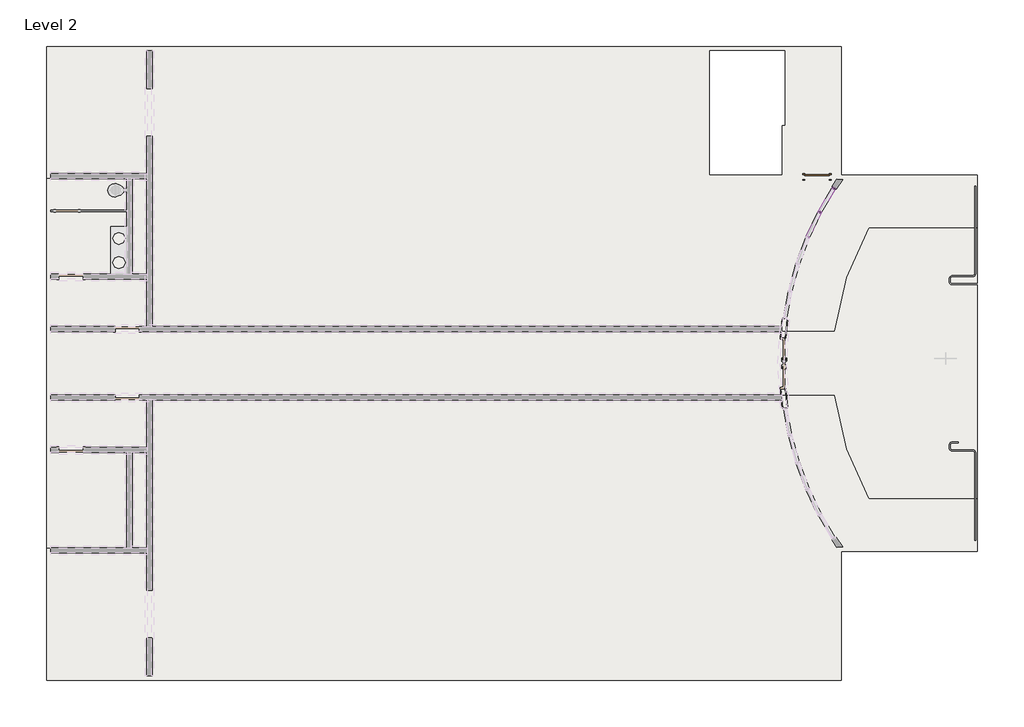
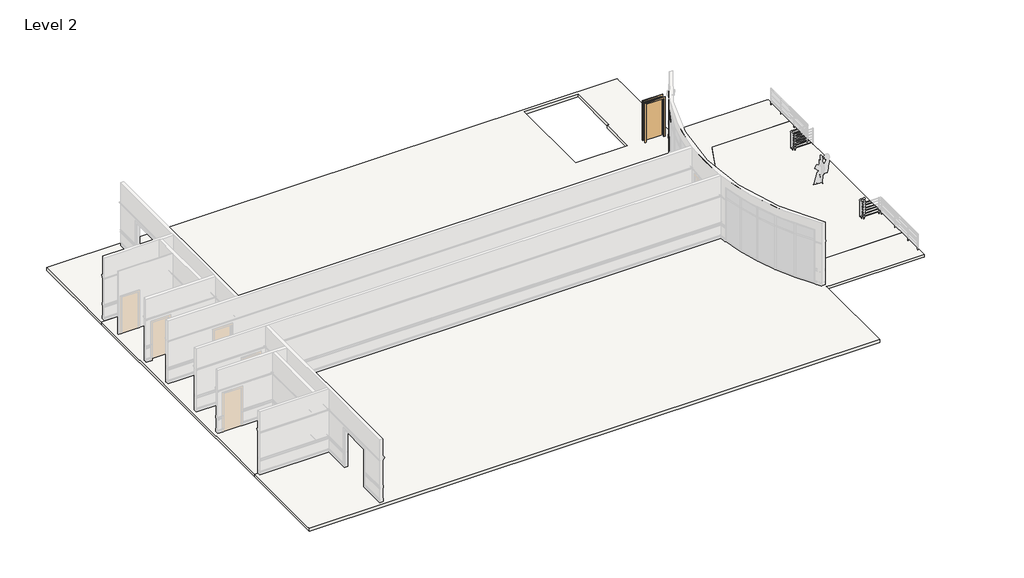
# One storey, part 3 of 14: 7 members, 2 slabs, 1 door.
"""IFC4 building model written with IfcOpenShell, lengths in millimetres."""

from ifc_helpers import new_model, si_unit, point, frame, frame_2d, origin, place, context, project, spatial, polyline, circle_curve, trimmed, segment, composite_curve, outline, extrude, transform, mapped, element, save
from ifc_brep_helpers import plane_surface, revolved_surface, advanced_brep
from components import door_d6d25fb4, member_47d2ef55, member_5e6938f9, member_ce8d5a40, member_f0fea5a5, member_6e77e263, member_ee409385, member_47bfaf8a

model = new_model("IFC4")

# Units and contexts
model_context = context("Model", 3, world=origin())
ifc_project = project(units=[si_unit("LENGTHUNIT", "METRE", prefix="MILLI")], contexts=[model_context])

# Site, building, storey
site = spatial("IfcSite", under=ifc_project)
building = spatial("IfcBuilding", under=site)
storey = spatial("IfcBuildingStorey", under=building, Name="Level 2", Elevation=3657.6)

# Door
placement = place(None, origin())
door_shape = door_d6d25fb4(model_context)
element("IfcDoor", 1, ObjectType="Single-Flush : 36\" x 84\"", at=placement, inside=storey, context=model_context, shape_type="MappedRepresentation", body=[
    mapped(door_shape, transform((11946.7089721, 4553.8023319, 3657.6), x_axis=(1.0, 0.0, 0.0), y_axis=(0.0, 1.0, 0.0), z_axis=(0.0, 0.0, 1.0))),
])

# Members
member_shape = member_47d2ef55(model_context)
element("IfcMember", 2, ObjectType="Rectangular Mullion : 2.5\" x 5\" rectangular", at=placement, inside=storey, context=model_context, shape_type="MappedRepresentation", body=[
    mapped(member_shape, transform((12565.6364125, 4097.4971785, 6705.6), x_axis=(0.0, 0.0, 1.0), y_axis=(0.8609079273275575, -0.5087607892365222, 0.0), z_axis=(0.5087607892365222, 0.8609079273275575, 0.0))),
])
member_2_shape = member_5e6938f9(model_context)
element("IfcMember", 3, ObjectType="Rectangular Mullion : 2.5\" x 5\" rectangular", at=placement, inside=storey, context=model_context, shape_type="MappedRepresentation", body=[
    mapped(member_2_shape, transform((12039.2069267, 3201.2124738, 6096.0), x_axis=(0.0, 0.0, 1.0), y_axis=(0.9022462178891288, -0.4312212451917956, 0.0), z_axis=(0.4312212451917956, 0.9022462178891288, 0.0))),
])
member_3_shape = member_ce8d5a40(model_context)
element("IfcMember", 4, ObjectType="Rectangular Mullion : 2.5\" x 5\" rectangular", at=placement, inside=storey, context=model_context, shape_type="MappedRepresentation", body=[
    mapped(member_3_shape, transform((12565.6364125, 4097.4971785, 6096.0), x_axis=(0.0, 0.0, 1.0), y_axis=(0.8609079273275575, -0.5087607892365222, 0.0), z_axis=(0.5087607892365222, 0.8609079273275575, 0.0))),
])
member_4_shape = member_f0fea5a5(model_context)
element("IfcMember", 5, ObjectType="Rectangular Mullion : 2.5\" x 5\" rectangular", at=placement, inside=storey, context=model_context, shape_type="MappedRepresentation", body=[
    mapped(member_4_shape, transform((12052.8982012, 3229.8587913, 3657.6), x_axis=(0.4704452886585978, 0.88242916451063, 0.0), y_axis=(0.88242916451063, -0.4704452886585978, 0.0), z_axis=(0.0, 0.0, -1.0))),
])
member_5_shape = member_6e77e263(model_context)
element("IfcMember", 6, ObjectType="Rectangular Mullion : 2.5\" x 5\" rectangular", at=placement, inside=storey, context=model_context, shape_type="MappedRepresentation", body=[
    mapped(member_5_shape, transform((12052.8982012, 3229.8587913, 6096.0), x_axis=(0.4704452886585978, 0.88242916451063, 0.0), y_axis=(0.88242916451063, -0.4704452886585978, 0.0), z_axis=(0.0, 0.0, -1.0))),
])
member_6_shape = member_ee409385(model_context)
element("IfcMember", 7, ObjectType="Rectangular Mullion : 2.5\" x 5\" rectangular", at=placement, inside=storey, context=model_context, shape_type="MappedRepresentation", body=[
    mapped(member_6_shape, transform((12597.9427226, 4152.1648319, 3657.6), x_axis=(0.5087607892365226, 0.8609079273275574, 0.0), y_axis=(0.8609079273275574, -0.5087607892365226, 0.0), z_axis=(0.0, 0.0, -1.0))),
])
member_7_shape = member_47bfaf8a(model_context)
element("IfcMember", 8, ObjectType="Rectangular Mullion : 2.5\" x 5\" rectangular", at=placement, inside=storey, context=model_context, shape_type="MappedRepresentation", body=[
    mapped(member_7_shape, transform((12597.9427226, 4152.1648319, 6096.0), x_axis=(0.5087607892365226, 0.8609079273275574, 0.0), y_axis=(0.8609079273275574, -0.5087607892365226, 0.0), z_axis=(0.0, 0.0, -1.0))),
])

# Slabs
element("IfcSlab", 9, ObjectType="Concrete Deck with Hardwood", at=placement, inside=storey, context=model_context, shape_type="AdvancedBrep", body=[
    advanced_brep(
    [(18023.4049721, -9633.6851681, 3505.2), (17937.9339721, -9633.6851681, 3505.2), (13061.1339721, -9633.6851681, 3505.2), (12873.8089721, -9633.6851681, 3505.2), (12873.8089721, -10430.6101681, 3505.2), (12873.8089721, -14088.2101681, 3505.2), (12873.8089721, -14345.3851681, 3505.2), (12873.8089721, -14510.4851681, 3505.2), (-17231.5410279, -14510.4851681, 3505.2), (-17231.5410279, -14345.3851681, 3505.2), (-17231.5410279, -9522.5601681, 3505.2), (-13408.8410279, -9522.5601681, 3505.2), (-13408.8410279, -3725.0101681, 3505.2), (12598.5777452, -3725.0101681, 3505.2), (13899.0107745, -7639.7851681, 3505.2), (18023.4049721, -7639.7851681, 3505.2), (12873.8089721, -9633.6851681, 3657.6), (13061.1339721, -9633.6851681, 3657.6), (17937.9339721, -9633.6851681, 3657.6), (18023.4049721, -9633.6851681, 3657.6), (18023.4049721, -7639.7851681, 3657.6), (13899.0107745, -7639.7851681, 3657.6), (12598.5777452, -3725.0101681, 3657.6), (-13408.8410279, -3725.0101681, 3657.6), (-13408.8410279, -9522.5601681, 3657.6), (-17231.5410279, -9522.5601681, 3657.6), (-17231.5410279, -14345.3851681, 3657.6), (-17231.5410279, -14510.4851681, 3657.6), (12873.8089721, -14510.4851681, 3657.6), (12873.8089721, -14345.3851681, 3657.6), (12873.8089721, -14088.2101681, 3657.6), (12873.8089721, -10430.6101681, 3657.6)],
    [
        (0, 1),
        (1, 2),
        (2, 3),
        (3, 4),
        (4, 5),
        (5, 6),
        (6, 7),
        (7, 8),
        (8, 9),
        (9, 10),
        (10, 11),
        (11, 12),
        (12, 13),
        (13, 14, circle_curve(frame((22811.474575, -2505.8101681, 3505.2), z_axis=(0.0, 0.0, 1.0), x_axis=(1.0, 0.0, 0.0)), 10285.4125)),
        (14, 15),
        (15, 0),
        (16, 17),
        (17, 18),
        (18, 19),
        (19, 20),
        (20, 21),
        (21, 22, circle_curve(frame((22811.474575, -2505.8101681, 3657.6), z_axis=(0.0, 0.0, -1.0), x_axis=(1.0, 0.0, 0.0)), 10285.4125)),
        (22, 23),
        (23, 24),
        (24, 25),
        (25, 26),
        (26, 27),
        (27, 28),
        (28, 29),
        (29, 30),
        (30, 31),
        (31, 16),
        (0, 19),
        (16, 3),
        (28, 7),
        (27, 8),
        (25, 10),
        (24, 11),
        (23, 12),
        (22, 13),
        (21, 14),
        (20, 15),
    ],
    [
        plane_surface(frame((-13408.8410279, -9522.5601681, 3505.2), z_axis=(0.0, 0.0, -1.0), x_axis=(1.0, 0.0, 0.0))),
        plane_surface(frame((-13408.8410279, -9522.5601681, 3657.6), z_axis=(0.0, 0.0, 1.0), x_axis=(-1.0, 0.0, 0.0))),
        plane_surface(frame((18023.4049721, -9633.6851681, 3505.2), z_axis=(0.0, -1.0, 0.0), x_axis=(0.0, 0.0, 1.0))),
        plane_surface(frame((12873.8089721, -9633.6851681, 3505.2), z_axis=(1.0, 0.0, 0.0), x_axis=(0.0, 0.0, 1.0))),
        plane_surface(frame((12873.8089721, -14510.4851681, 3505.2), z_axis=(0.0, -1.0, 0.0), x_axis=(0.0, 0.0, 1.0))),
        plane_surface(frame((-17231.5410279, -14510.4851681, 3505.2), z_axis=(-1.0, 0.0, 0.0), x_axis=(0.0, 0.0, 1.0))),
        plane_surface(frame((-17231.5410279, -9522.5601681, 3505.2), z_axis=(0.0, 1.0, 0.0), x_axis=(0.0, 0.0, 1.0))),
        plane_surface(frame((-13408.8410279, -9522.5601681, 3505.2), z_axis=(-1.0, 0.0, 0.0), x_axis=(0.0, 0.0, 1.0))),
        plane_surface(frame((-13408.8410279, -3725.0101681, 3505.2), z_axis=(0.0, 1.0, 0.0), x_axis=(0.0, 0.0, 1.0))),
        revolved_surface(polyline([(33096.887075, -2505.8101681, 3657.6), (33096.887075, -2505.8101681, 3505.2)]), (22811.474575, -2505.8101681, 3657.6), (0.0, 0.0, 1.0)),
        plane_surface(frame((13899.0107745, -7639.7851681, 3505.2), z_axis=(0.0, 1.0, 0.0), x_axis=(0.0, 0.0, 1.0))),
        plane_surface(frame((18023.4049721, -7639.7851681, 3505.2), z_axis=(1.0, 0.0, 0.0), x_axis=(0.0, 0.0, 1.0))),
    ],
    [
        (0, [[1, 2, 3, 4, 5, 6, 7, 8, 9, 10, 11, 12, 13, 14, 15, 16]]),
        (1, [[17, 18, 19, 20, 21, 22, 23, 24, 25, 26, 27, 28, 29, 30, 31, 32]]),
        (2, [[-3, -2, -1, 33, -19, -18, -17, 34]]),
        (3, [[-7, -6, -5, -4, -34, -32, -31, -30, -29, 35]]),
        (4, [[-8, -35, -28, 36]]),
        (5, [[-10, -9, -36, -27, -26, 37]]),
        (6, [[-11, -37, -25, 38]]),
        (7, [[-12, -38, -24, 39]]),
        (8, [[-13, -39, -23, 40]]),
        (9, [[-14, -40, -22, 41]]),
        (10, [[-15, -41, -21, 42]]),
        (11, [[-16, -42, -20, -33]]),
    ],
),
    advanced_brep(
    [(-17231.5410279, 9498.8648319, 3505.2), (-17066.4410279, 9498.8648319, 3505.2), (12873.8089721, 9498.8648319, 3505.2), (12873.8089721, 9333.7648319, 3505.2), (12873.8089721, 9076.5898319, 3505.2), (12873.8089721, 5418.9898319, 3505.2), (12873.8089721, 4622.0648319, 3505.2), (13061.1339721, 4622.0648319, 3505.2), (17937.9339721, 4622.0648319, 3505.2), (18023.4049721, 4622.0648319, 3505.2), (18023.4049721, 2628.1648319, 3505.2), (13899.0107745, 2628.1648319, 3505.2), (12598.5777452, -1286.6101681, 3505.2), (-13408.8410279, -1286.6101681, 3505.2), (-13408.8410279, 4510.9398319, 3505.2), (-17231.5410279, 4510.9398319, 3505.2), (7883.7381388, 9333.7648319, 3505.2), (7883.7381388, 4651.5398319, 3505.2), (10616.9131388, 4651.5398319, 3505.2), (10616.9131388, 6514.3648319, 3505.2), (10718.2353862, 6514.3648319, 3505.2), (10718.2353862, 9333.7648319, 3505.2), (12873.8089721, 9498.8648319, 3657.6), (-17066.4410279, 9498.8648319, 3657.6), (-17231.5410279, 9498.8648319, 3657.6), (-17231.5410279, 4510.9398319, 3657.6), (-13408.8410279, 4510.9398319, 3657.6), (-13408.8410279, -1286.6101681, 3657.6), (12598.5777452, -1286.6101681, 3657.6), (13899.0107745, 2628.1648319, 3657.6), (18023.4049721, 2628.1648319, 3657.6), (18023.4049721, 4622.0648319, 3657.6), (17937.9339721, 4622.0648319, 3657.6), (13061.1339721, 4622.0648319, 3657.6), (12873.8089721, 4622.0648319, 3657.6), (12873.8089721, 5418.9898319, 3657.6), (12873.8089721, 9076.5898319, 3657.6), (12873.8089721, 9333.7648319, 3657.6), (7883.7381388, 4651.5398319, 3657.6), (7883.7381388, 9333.7648319, 3657.6), (10718.2353862, 9333.7648319, 3657.6), (10718.2353862, 6514.3648319, 3657.6), (10616.9131388, 6514.3648319, 3657.6), (10616.9131388, 4651.5398319, 3657.6)],
    [
        (0, 1),
        (1, 2),
        (2, 3),
        (3, 4),
        (4, 5),
        (5, 6),
        (6, 7),
        (7, 8),
        (8, 9),
        (9, 10),
        (10, 11),
        (11, 12, circle_curve(frame((22811.474575, -2505.8101681, 3505.2), z_axis=(0.0, 0.0, 1.0), x_axis=(1.0, 0.0, 0.0)), 10285.4125)),
        (12, 13),
        (13, 14),
        (14, 15),
        (15, 0),
        (16, 17),
        (17, 18),
        (18, 19),
        (19, 20),
        (20, 21),
        (21, 16),
        (22, 23),
        (23, 24),
        (24, 25),
        (25, 26),
        (26, 27),
        (27, 28),
        (28, 29, circle_curve(frame((22811.474575, -2505.8101681, 3657.6), z_axis=(0.0, 0.0, -1.0), x_axis=(1.0, 0.0, 0.0)), 10285.4125)),
        (29, 30),
        (30, 31),
        (31, 32),
        (32, 33),
        (33, 34),
        (34, 35),
        (35, 36),
        (36, 37),
        (37, 22),
        (38, 39),
        (39, 40),
        (40, 41),
        (41, 42),
        (42, 43),
        (43, 38),
        (0, 24),
        (22, 2),
        (34, 6),
        (31, 9),
        (30, 10),
        (29, 11),
        (28, 12),
        (27, 13),
        (26, 14),
        (25, 15),
        (16, 39),
        (38, 17),
        (43, 18),
        (42, 19),
        (41, 20),
        (40, 21),
    ],
    [
        plane_surface(frame((-13408.8410279, -9522.5601681, 3505.2), z_axis=(0.0, 0.0, -1.0), x_axis=(1.0, 0.0, 0.0))),
        plane_surface(frame((-13408.8410279, -9522.5601681, 3657.6), z_axis=(0.0, 0.0, 1.0), x_axis=(-1.0, 0.0, 0.0))),
        plane_surface(frame((-17231.5410279, 9498.8648319, 3505.2), z_axis=(0.0, 1.0, 0.0), x_axis=(0.0, 0.0, 1.0))),
        plane_surface(frame((12873.8089721, 9498.8648319, 3505.2), z_axis=(1.0, 0.0, 0.0), x_axis=(0.0, 0.0, 1.0))),
        plane_surface(frame((12873.8089721, 4622.0648319, 3505.2), z_axis=(0.0, 1.0, 0.0), x_axis=(0.0, 0.0, 1.0))),
        plane_surface(frame((18023.4049721, 4622.0648319, 3505.2), z_axis=(1.0, 0.0, 0.0), x_axis=(0.0, 0.0, 1.0))),
        plane_surface(frame((18023.4049721, 2628.1648319, 3505.2), z_axis=(0.0, -1.0, 0.0), x_axis=(0.0, 0.0, 1.0))),
        revolved_surface(polyline([(33096.887075, -2505.8101681, 3657.6), (33096.887075, -2505.8101681, 3505.2)]), (22811.474575, -2505.8101681, 3657.6), (0.0, 0.0, 1.0)),
        plane_surface(frame((12598.5777452, -1286.6101681, 3505.2), z_axis=(0.0, -1.0, 0.0), x_axis=(0.0, 0.0, 1.0))),
        plane_surface(frame((-13408.8410279, -1286.6101681, 3505.2), z_axis=(-1.0, 0.0, 0.0), x_axis=(0.0, 0.0, 1.0))),
        plane_surface(frame((-13408.8410279, 4510.9398319, 3505.2), z_axis=(0.0, -1.0, 0.0), x_axis=(0.0, 0.0, 1.0))),
        plane_surface(frame((-17231.5410279, 4510.9398319, 3505.2), z_axis=(-1.0, 0.0, 0.0), x_axis=(0.0, 0.0, 1.0))),
        plane_surface(frame((7883.7381388, 9333.7648319, 7620.0), z_axis=(1.0, 0.0, 0.0), x_axis=(0.0, 0.0, -1.0))),
        plane_surface(frame((7883.7381388, 4651.5398319, 7620.0), z_axis=(0.0, 1.0, 0.0), x_axis=(0.0, 0.0, -1.0))),
        plane_surface(frame((10616.9131388, 4651.5398319, 7620.0), z_axis=(-1.0, 0.0, 0.0), x_axis=(0.0, 0.0, -1.0))),
        plane_surface(frame((10616.9131388, 6514.3648319, 7620.0), z_axis=(0.0, 1.0, 0.0), x_axis=(0.0, 0.0, -1.0))),
        plane_surface(frame((10718.2353862, 6514.3648319, 7620.0), z_axis=(-1.0, 0.0, 0.0), x_axis=(0.0, 0.0, -1.0))),
        plane_surface(frame((10718.2353862, 9333.7648319, 7620.0), z_axis=(0.0, -1.0, 0.0), x_axis=(0.0, 0.0, -1.0))),
    ],
    [
        (0, [[1, 2, 3, 4, 5, 6, 7, 8, 9, 10, 11, 12, 13, 14, 15, 16], [17, 18, 19, 20, 21, 22]]),
        (1, [[23, 24, 25, 26, 27, 28, 29, 30, 31, 32, 33, 34, 35, 36, 37, 38], [39, 40, 41, 42, 43, 44]]),
        (2, [[-2, -1, 45, -24, -23, 46]]),
        (3, [[-6, -5, -4, -3, -46, -38, -37, -36, -35, 47]]),
        (4, [[-9, -8, -7, -47, -34, -33, -32, 48]]),
        (5, [[-10, -48, -31, 49]]),
        (6, [[-11, -49, -30, 50]]),
        (7, [[-12, -50, -29, 51]]),
        (8, [[-13, -51, -28, 52]]),
        (9, [[-14, -52, -27, 53]]),
        (10, [[-15, -53, -26, 54]]),
        (11, [[-16, -54, -25, -45]]),
        (12, [[55, -39, 56, -17]]),
        (13, [[-56, -44, 57, -18]]),
        (14, [[-57, -43, 58, -19]]),
        (15, [[-58, -42, 59, -20]]),
        (16, [[-59, -41, 60, -21]]),
        (17, [[-55, -22, -60, -40]]),
    ],
),
])
element("IfcSlab", 10, ObjectType="Concrete Deck with Quarry Tile", at=placement, inside=storey, context=model_context, shape_type="SweptSolid", body=[
    extrude(outline(composite_curve([segment(polyline([(18023.4049721, 2628.1648319), (18023.4049721, -7639.7851681), (13899.0107745, -7639.7851681)]), True, "CONTINUOUS"), segment(trimmed(circle_curve(frame_2d((22811.474575, -2505.8101681)), 10285.4125), [point((13899.0107745, -7639.7851681))], [point((12598.5777452, -3725.0101681))], False, "CARTESIAN"), True, "CONTINUOUS"), segment(polyline([(12598.5777452, -3725.0101681), (-13408.8410279, -3725.0101681), (-13408.8410279, -9522.5601681), (-17231.5410279, -9522.5601681), (-17231.5410279, 4510.9398319), (-13408.8410279, 4510.9398319), (-13408.8410279, -1286.6101681), (12598.5777452, -1286.6101681)]), True, "CONTINUOUS"), segment(trimmed(circle_curve(frame_2d((22811.474575, -2505.8101681)), 10285.4125), [point((12598.5777452, -1286.6101681))], [point((13899.0107745, 2628.1648319))], False, "CARTESIAN"), True, "CONTINUOUS"), segment(polyline([(13899.0107745, 2628.1648319), (18023.4049721, 2628.1648319)]), True, "CONTINUOUS")], self_intersect=False)), frame((0.0, 0.0, 3505.2), z_axis=(0.0, 0.0, 1.0), x_axis=(1.0, 0.0, 0.0)), (0.0, 0.0, 1.0), 152.4),
])

save(model, "model.ifc")
